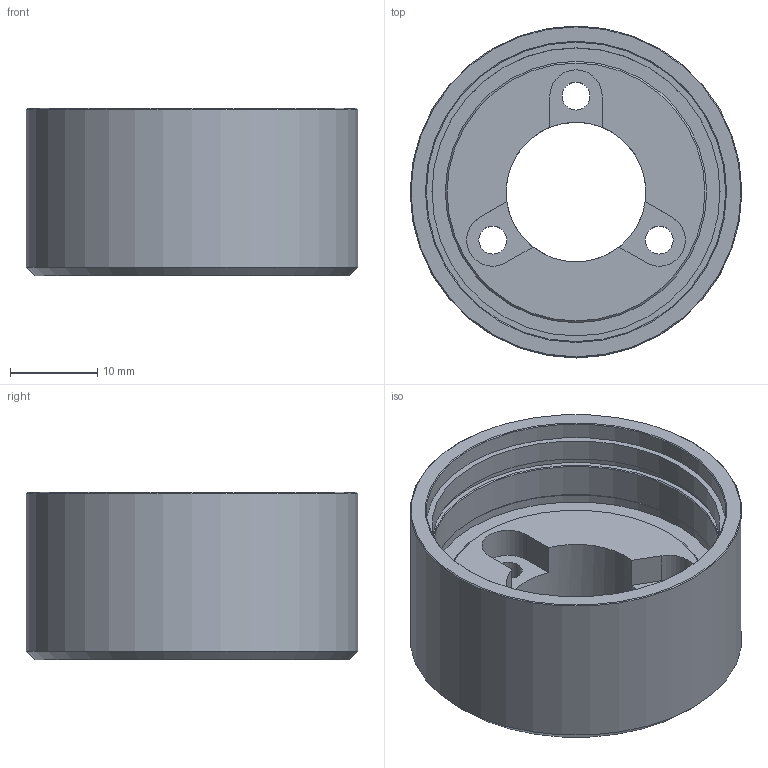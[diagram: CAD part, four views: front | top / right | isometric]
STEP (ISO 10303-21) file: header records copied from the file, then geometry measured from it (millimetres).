
FILE_DESCRIPTION(/* description */ (''),/* implementation_level */ '2;1');
FILE_NAME(/* name */ '38-1_flange_d.stp',/* time_stamp */ '2019-07-10T14:30:05+02:00',/* author */ ('DR. FRITZ FAULHABER GmbH & Co. KG'),/* organization */ ('DR. FRITZ FAULHABER GmbH & Co. KG'),/* preprocessor_version */ 'ST-DEVELOPER v16.7',/* originating_system */ 'SIEMENS PLM Software NX 12.0',/* authorisation */ '');
FILE_SCHEMA (('AUTOMOTIVE_DESIGN { 1 0 10303 214 3 1 1 1 }'));
Length unit declared in the file: millimetre
Products named in the file (1): Part
Bounding box: 38 x 38 x 19.2 mm (x, y, z)
Volume: 10248.4 mm3; surface area: 6017.8 mm2
Topology: 1 solids, 1 shells, 36 faces, 84 edges, 55 vertices
Faces by surface type: plane 16, cylinder 13, cone 7
Full cylindrical faces by diameter (mm): 3.2 x3, 16 x1, 33 x2, 33.4 x1, 34.3 x2, 38 x1
Entity records: 952 total; most frequent: DIRECTION 174, CARTESIAN_POINT 149, ORIENTED_EDGE 124, AXIS2_PLACEMENT_3D 75, EDGE_LOOP 66, EDGE_CURVE 62, FACE_BOUND 57, VERTEX_POINT 50
